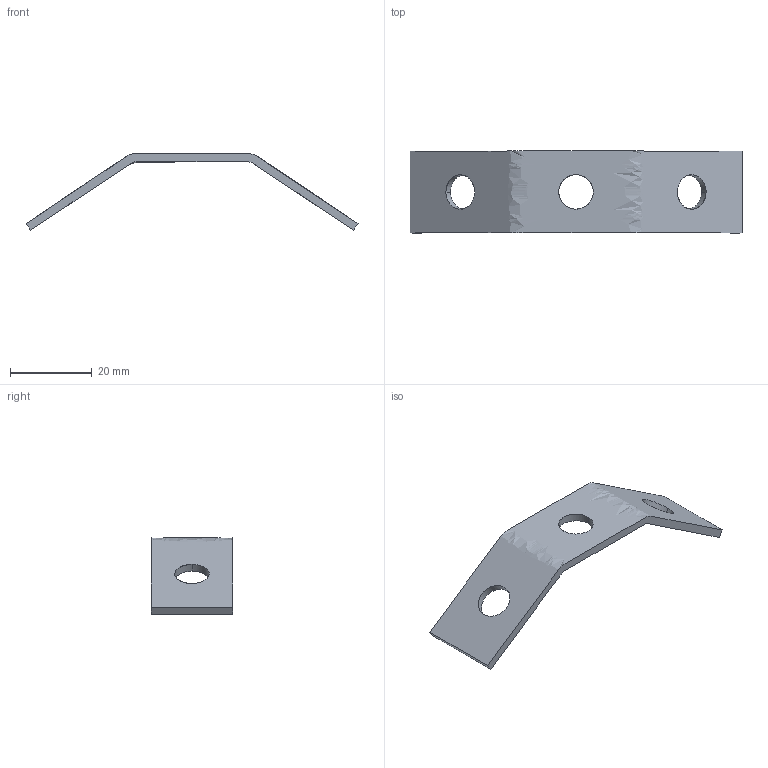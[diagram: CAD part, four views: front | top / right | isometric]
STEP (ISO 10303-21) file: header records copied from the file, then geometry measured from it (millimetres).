
FILE_DESCRIPTION(/* description */ (''),/* implementation_level */ '2;1');
FILE_NAME(/* name */ 'DZM15',/* time_stamp */ '2012-11-29T22:49:20+01:00',/* author */ (''),/* organization */ (''),/* preprocessor_version */ 'ST-DEVELOPER v10',/* originating_system */ '',/* authorisation */ '');
FILE_SCHEMA (('AUTOMOTIVE_DESIGN_CC2'));
Length unit declared in the file: millimetre
Products named in the file (1): 1
Bounding box: 81.09 x 20 x 18.7 mm (x, y, z)
Surface area: 3996.8 mm2 (no closed solid volume)
Topology: 0 solids, 10 shells, 13 faces, 54 edges, 48 vertices
Faces by surface type: bspline 9, plane 4
Entity records: 787 total; most frequent: CARTESIAN_POINT 414, ORIENTED_EDGE 60, EDGE_CURVE 54, VERTEX_POINT 48, B_SPLINE_CURVE_WITH_KNOTS 24, EDGE_LOOP 19, ADVANCED_FACE 13, FACE_OUTER_BOUND 13
